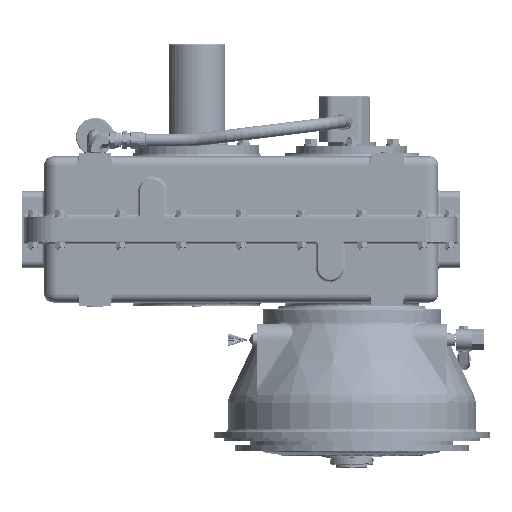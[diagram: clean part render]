
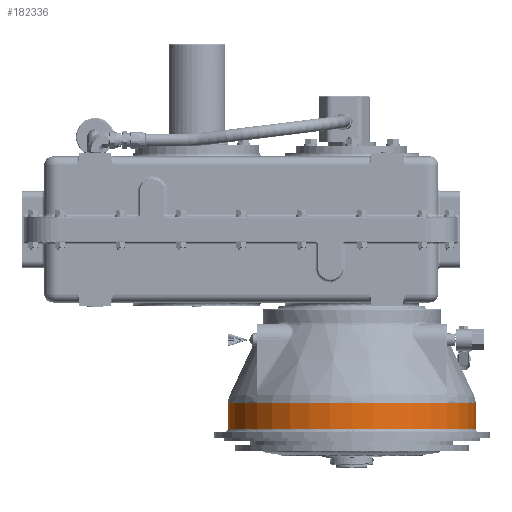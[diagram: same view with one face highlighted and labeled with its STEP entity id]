
A CAD part, front view. The second image highlights one B-rep face of the part: STEP entity #182336.
In plain terms, the highlighted cylindrical face has radius 247.65 mm (diameter 495.3 mm), a partial arc.
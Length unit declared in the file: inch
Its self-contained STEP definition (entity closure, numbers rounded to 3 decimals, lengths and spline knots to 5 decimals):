
#5611 = CIRCLE ( 'NONE', #166422, 9.75 ) ;
#7093 = DIRECTION ( 'NONE',  ( 1., 0., 0. ) ) ;
#14999 = AXIS2_PLACEMENT_3D ( 'NONE', #96756, #225235, #115213 ) ;
#15366 = DIRECTION ( 'NONE',  ( 0., 0., -1. ) ) ;
#17140 = AXIS2_PLACEMENT_3D ( 'NONE', #69737, #198172, #88251 ) ;
#18956 = VERTEX_POINT ( 'NONE', #199143 ) ;
#34915 = CIRCLE ( 'NONE', #14999, 9.75 ) ;
#39922 = EDGE_CURVE ( 'NONE', #137453, #218825, #56729, .T. ) ;
#51262 = CARTESIAN_POINT ( 'NONE',  ( -1., -9.75, 0. ) ) ;
#51547 = EDGE_LOOP ( 'NONE', ( #212554, #149143, #166870, #57009, #201807, #197090 ) ) ;
#54239 = CARTESIAN_POINT ( 'NONE',  ( -3., 0., 0. ) ) ;
#56607 = AXIS2_PLACEMENT_3D ( 'NONE', #117057, #7093, #207817 ) ;
#56729 = CIRCLE ( 'NONE', #17140, 9.75 ) ;
#57009 = ORIENTED_EDGE ( 'NONE', *, *, #203118, .T. ) ;
#60401 = VERTEX_POINT ( 'NONE', #178171 ) ;
#60746 = FACE_OUTER_BOUND ( 'NONE', #51547, .T. ) ;
#69737 = CARTESIAN_POINT ( 'NONE',  ( -3., 0., 0. ) ) ;
#70057 = EDGE_CURVE ( 'NONE', #96545, #18956, #190528, .T. ) ;
#72711 = DIRECTION ( 'NONE',  ( 0., -1., 0. ) ) ;
#88251 = DIRECTION ( 'NONE',  ( 0., -1., 0. ) ) ;
#93135 = CARTESIAN_POINT ( 'NONE',  ( -11.21925, 0., -9.75 ) ) ;
#96545 = VERTEX_POINT ( 'NONE', #201187 ) ;
#96756 = CARTESIAN_POINT ( 'NONE',  ( -1., 0., 0. ) ) ;
#100449 = VERTEX_POINT ( 'NONE', #51262 ) ;
#103825 = CYLINDRICAL_SURFACE ( 'NONE', #56607, 9.75 ) ;
#108620 = CARTESIAN_POINT ( 'NONE',  ( -11.21925, 0., 9.75 ) ) ;
#111337 = EDGE_CURVE ( 'NONE', #60401, #100449, #5611, .T. ) ;
#115213 = DIRECTION ( 'NONE',  ( 0., 0., -1. ) ) ;
#117057 = CARTESIAN_POINT ( 'NONE',  ( -11.21925, 0., 0. ) ) ;
#120311 = CIRCLE ( 'NONE', #172205, 9.75 ) ;
#123109 = VECTOR ( 'NONE', #204726, 39.37008 ) ;
#125298 = DIRECTION ( 'NONE',  ( -1., 0., 0. ) ) ;
#125367 = CARTESIAN_POINT ( 'NONE',  ( -3., 0., -9.75 ) ) ;
#128763 = LINE ( 'NONE', #93135, #123109 ) ;
#130060 = VECTOR ( 'NONE', #200148, 39.37008 ) ;
#137453 = VERTEX_POINT ( 'NONE', #125367 ) ;
#143115 = EDGE_CURVE ( 'NONE', #100449, #18956, #34915, .T. ) ;
#145307 = EDGE_CURVE ( 'NONE', #218825, #96545, #120311, .T. ) ;
#149143 = ORIENTED_EDGE ( 'NONE', *, *, #145307, .F. ) ;
#166422 = AXIS2_PLACEMENT_3D ( 'NONE', #235342, #125298, #15366 ) ;
#166870 = ORIENTED_EDGE ( 'NONE', *, *, #39922, .F. ) ;
#172205 = AXIS2_PLACEMENT_3D ( 'NONE', #54239, #182675, #72711 ) ;
#178171 = CARTESIAN_POINT ( 'NONE',  ( -1., 0., -9.75 ) ) ;
#182336 = ADVANCED_FACE ( 'NONE', ( #60746 ), #103825, .T. ) ;
#182675 = DIRECTION ( 'NONE',  ( -1., 0., 0. ) ) ;
#190528 = LINE ( 'NONE', #108620, #130060 ) ;
#197090 = ORIENTED_EDGE ( 'NONE', *, *, #143115, .T. ) ;
#198172 = DIRECTION ( 'NONE',  ( -1., 0., 0. ) ) ;
#199143 = CARTESIAN_POINT ( 'NONE',  ( -1., 0., 9.75 ) ) ;
#200148 = DIRECTION ( 'NONE',  ( 1., 0., 0. ) ) ;
#201187 = CARTESIAN_POINT ( 'NONE',  ( -3., 0., 9.75 ) ) ;
#201807 = ORIENTED_EDGE ( 'NONE', *, *, #111337, .T. ) ;
#203118 = EDGE_CURVE ( 'NONE', #137453, #60401, #128763, .T. ) ;
#204726 = DIRECTION ( 'NONE',  ( 1., 0., 0. ) ) ;
#207817 = DIRECTION ( 'NONE',  ( 0., 0., -1. ) ) ;
#212554 = ORIENTED_EDGE ( 'NONE', *, *, #70057, .F. ) ;
#216762 = CARTESIAN_POINT ( 'NONE',  ( -3., -9.75, 0. ) ) ;
#218825 = VERTEX_POINT ( 'NONE', #216762 ) ;
#225235 = DIRECTION ( 'NONE',  ( -1., 0., 0. ) ) ;
#235342 = CARTESIAN_POINT ( 'NONE',  ( -1., 0., 0. ) ) ;
